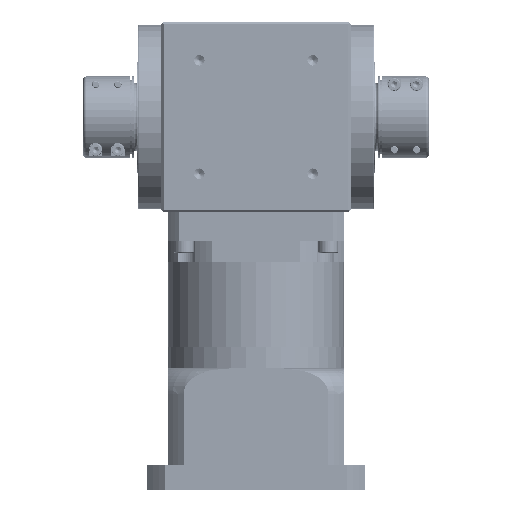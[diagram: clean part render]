
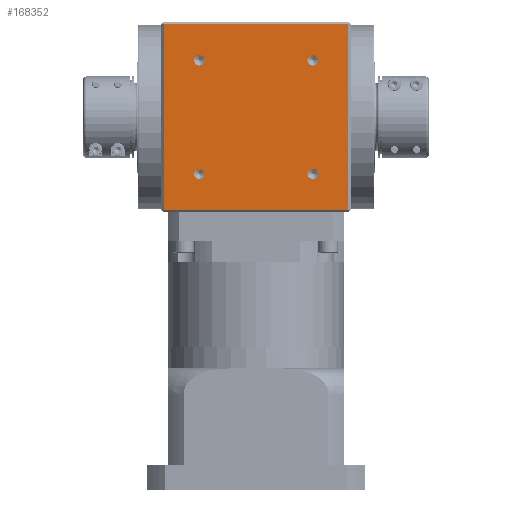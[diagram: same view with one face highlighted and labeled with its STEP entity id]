
A CAD part, top view. The second image highlights one B-rep face of the part: STEP entity #168352.
In plain terms, the highlighted planar face has unit normal (0, 0, 1).
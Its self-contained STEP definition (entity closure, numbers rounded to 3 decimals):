
#1145 = VERTEX_POINT ( 'NONE', #4447 ) ;
#2578 = CARTESIAN_POINT ( 'NONE',  ( -74.872, 357., 77. ) ) ;
#4371 = DIRECTION ( 'NONE',  ( 0., 1., 0. ) ) ;
#4447 = CARTESIAN_POINT ( 'NONE',  ( 45.962, 231.788, 77. ) ) ;
#5282 = DIRECTION ( 'NONE',  ( 0., -1., 0. ) ) ;
#11130 = ORIENTED_EDGE ( 'NONE', *, *, #87867, .F. ) ;
#12067 = CIRCLE ( 'NONE', #122741, 4.25 ) ;
#12569 = EDGE_CURVE ( 'NONE', #1145, #137122, #66223, .T. ) ;
#16577 = CARTESIAN_POINT ( 'NONE',  ( 45.962, 236.038, 77. ) ) ;
#17306 = PLANE ( 'NONE',  #162827 ) ;
#17497 = VERTEX_POINT ( 'NONE', #113237 ) ;
#17625 = VECTOR ( 'NONE', #158482, 1000. ) ;
#19391 = CARTESIAN_POINT ( 'NONE',  ( -45.962, 236.038, 77. ) ) ;
#20758 = VERTEX_POINT ( 'NONE', #116572 ) ;
#25735 = ORIENTED_EDGE ( 'NONE', *, *, #95438, .F. ) ;
#29971 = DIRECTION ( 'NONE',  ( 0., -1., 0. ) ) ;
#30185 = VERTEX_POINT ( 'NONE', #48305 ) ;
#32854 = DIRECTION ( 'NONE',  ( 0., -1., 0. ) ) ;
#36179 = ORIENTED_EDGE ( 'NONE', *, *, #85710, .F. ) ;
#36264 = FACE_BOUND ( 'NONE', #67404, .T. ) ;
#42351 = EDGE_CURVE ( 'NONE', #88865, #30185, #69183, .T. ) ;
#44193 = CARTESIAN_POINT ( 'NONE',  ( -45.962, 236.038, 77. ) ) ;
#44620 = FACE_BOUND ( 'NONE', #155348, .T. ) ;
#45967 = CARTESIAN_POINT ( 'NONE',  ( 45.962, 236.038, 77. ) ) ;
#48305 = CARTESIAN_POINT ( 'NONE',  ( -74.872, 207., 77. ) ) ;
#49440 = DIRECTION ( 'NONE',  ( 1., 0., 0. ) ) ;
#49596 = CIRCLE ( 'NONE', #65592, 4.25 ) ;
#53666 = CIRCLE ( 'NONE', #132421, 4.25 ) ;
#54776 = CARTESIAN_POINT ( 'NONE',  ( -95., 207., 77. ) ) ;
#56204 = ORIENTED_EDGE ( 'NONE', *, *, #75481, .F. ) ;
#57154 = AXIS2_PLACEMENT_3D ( 'NONE', #67101, #160731, #80566 ) ;
#57665 = DIRECTION ( 'NONE',  ( 0., -1., 0. ) ) ;
#58091 = CARTESIAN_POINT ( 'NONE',  ( 45.962, 332.212, 77. ) ) ;
#59382 = DIRECTION ( 'NONE',  ( 0., -1., 0. ) ) ;
#59794 = CIRCLE ( 'NONE', #94833, 4.25 ) ;
#65592 = AXIS2_PLACEMENT_3D ( 'NONE', #72640, #166194, #86047 ) ;
#66223 = CIRCLE ( 'NONE', #157189, 4.25 ) ;
#66682 = EDGE_CURVE ( 'NONE', #74231, #17497, #92906, .T. ) ;
#67101 = CARTESIAN_POINT ( 'NONE',  ( -45.962, 327.962, 77. ) ) ;
#67404 = EDGE_LOOP ( 'NONE', ( #74202, #36179 ) ) ;
#69183 = LINE ( 'NONE', #54776, #171696 ) ;
#71178 = ORIENTED_EDGE ( 'NONE', *, *, #114551, .F. ) ;
#72640 = CARTESIAN_POINT ( 'NONE',  ( -45.962, 327.962, 77. ) ) ;
#72905 = CARTESIAN_POINT ( 'NONE',  ( 45.962, 327.962, 77. ) ) ;
#74202 = ORIENTED_EDGE ( 'NONE', *, *, #12569, .F. ) ;
#74231 = VERTEX_POINT ( 'NONE', #2578 ) ;
#74896 = ORIENTED_EDGE ( 'NONE', *, *, #166946, .F. ) ;
#75481 = EDGE_CURVE ( 'NONE', #85405, #101602, #96734, .T. ) ;
#76143 = AXIS2_PLACEMENT_3D ( 'NONE', #165529, #85426, #5282 ) ;
#76159 = CARTESIAN_POINT ( 'NONE',  ( 74.872, 0., 77. ) ) ;
#76755 = CIRCLE ( 'NONE', #140718, 4.25 ) ;
#79197 = VERTEX_POINT ( 'NONE', #58091 ) ;
#80566 = DIRECTION ( 'NONE',  ( 0., -1., 0. ) ) ;
#84520 = DIRECTION ( 'NONE',  ( 0., 0., -1. ) ) ;
#85405 = VERTEX_POINT ( 'NONE', #133517 ) ;
#85426 = DIRECTION ( 'NONE',  ( 0., 0., 1. ) ) ;
#85710 = EDGE_CURVE ( 'NONE', #137122, #1145, #12067, .T. ) ;
#86047 = DIRECTION ( 'NONE',  ( 0., -1., 0. ) ) ;
#86327 = DIRECTION ( 'NONE',  ( 0., -1., 0. ) ) ;
#87867 = EDGE_CURVE ( 'NONE', #17497, #88865, #163150, .T. ) ;
#88865 = VERTEX_POINT ( 'NONE', #138163 ) ;
#92906 = LINE ( 'NONE', #115515, #159879 ) ;
#92938 = LINE ( 'NONE', #144973, #17625 ) ;
#93104 = EDGE_CURVE ( 'NONE', #151487, #20758, #76755, .T. ) ;
#93286 = ORIENTED_EDGE ( 'NONE', *, *, #101493, .F. ) ;
#94833 = AXIS2_PLACEMENT_3D ( 'NONE', #72905, #166485, #86327 ) ;
#95438 = EDGE_CURVE ( 'NONE', #79197, #119829, #59794, .T. ) ;
#96734 = CIRCLE ( 'NONE', #57154, 4.25 ) ;
#99135 = CARTESIAN_POINT ( 'NONE',  ( 45.962, 240.288, 77. ) ) ;
#101375 = ORIENTED_EDGE ( 'NONE', *, *, #93104, .F. ) ;
#101493 = EDGE_CURVE ( 'NONE', #119829, #79197, #155494, .T. ) ;
#101602 = VERTEX_POINT ( 'NONE', #139819 ) ;
#103207 = FACE_OUTER_BOUND ( 'NONE', #108611, .T. ) ;
#108611 = EDGE_LOOP ( 'NONE', ( #11130, #122243, #74896, #122571 ) ) ;
#110142 = DIRECTION ( 'NONE',  ( 0., 0., 1. ) ) ;
#110677 = CARTESIAN_POINT ( 'NONE',  ( 45.962, 323.712, 77. ) ) ;
#112996 = DIRECTION ( 'NONE',  ( 0., 0., 1. ) ) ;
#113237 = CARTESIAN_POINT ( 'NONE',  ( 74.872, 357., 77. ) ) ;
#114551 = EDGE_CURVE ( 'NONE', #101602, #85405, #49596, .T. ) ;
#115515 = CARTESIAN_POINT ( 'NONE',  ( -95., 357., 77. ) ) ;
#116572 = CARTESIAN_POINT ( 'NONE',  ( -45.962, 240.288, 77. ) ) ;
#118807 = ORIENTED_EDGE ( 'NONE', *, *, #124932, .F. ) ;
#119829 = VERTEX_POINT ( 'NONE', #110677 ) ;
#122243 = ORIENTED_EDGE ( 'NONE', *, *, #66682, .F. ) ;
#122571 = ORIENTED_EDGE ( 'NONE', *, *, #42351, .F. ) ;
#122741 = AXIS2_PLACEMENT_3D ( 'NONE', #16577, #110142, #29971 ) ;
#124932 = EDGE_CURVE ( 'NONE', #20758, #151487, #53666, .T. ) ;
#131724 = VECTOR ( 'NONE', #169715, 1000. ) ;
#132421 = AXIS2_PLACEMENT_3D ( 'NONE', #44193, #137771, #57665 ) ;
#133517 = CARTESIAN_POINT ( 'NONE',  ( -45.962, 332.212, 77. ) ) ;
#134856 = DIRECTION ( 'NONE',  ( -1., 0., 0. ) ) ;
#137122 = VERTEX_POINT ( 'NONE', #99135 ) ;
#137771 = DIRECTION ( 'NONE',  ( 0., 0., 1. ) ) ;
#138163 = CARTESIAN_POINT ( 'NONE',  ( 74.872, 207., 77. ) ) ;
#138743 = FACE_BOUND ( 'NONE', #139086, .T. ) ;
#139086 = EDGE_LOOP ( 'NONE', ( #93286, #25735 ) ) ;
#139531 = DIRECTION ( 'NONE',  ( 0., 0., 1. ) ) ;
#139819 = CARTESIAN_POINT ( 'NONE',  ( -45.962, 323.712, 77. ) ) ;
#140718 = AXIS2_PLACEMENT_3D ( 'NONE', #19391, #112996, #32854 ) ;
#142543 = CARTESIAN_POINT ( 'NONE',  ( -45.962, 231.788, 77. ) ) ;
#144973 = CARTESIAN_POINT ( 'NONE',  ( -74.872, 0., 77. ) ) ;
#147140 = FACE_BOUND ( 'NONE', #166045, .T. ) ;
#151487 = VERTEX_POINT ( 'NONE', #142543 ) ;
#155348 = EDGE_LOOP ( 'NONE', ( #71178, #56204 ) ) ;
#155494 = CIRCLE ( 'NONE', #76143, 4.25 ) ;
#157189 = AXIS2_PLACEMENT_3D ( 'NONE', #45967, #139531, #59382 ) ;
#158482 = DIRECTION ( 'NONE',  ( 0., 1., 0. ) ) ;
#159879 = VECTOR ( 'NONE', #49440, 1000. ) ;
#160731 = DIRECTION ( 'NONE',  ( 0., 0., 1. ) ) ;
#162827 = AXIS2_PLACEMENT_3D ( 'NONE', #164698, #84520, #4371 ) ;
#163150 = LINE ( 'NONE', #76159, #131724 ) ;
#164698 = CARTESIAN_POINT ( 'NONE',  ( -95., 359., 77. ) ) ;
#165529 = CARTESIAN_POINT ( 'NONE',  ( 45.962, 327.962, 77. ) ) ;
#166045 = EDGE_LOOP ( 'NONE', ( #101375, #118807 ) ) ;
#166194 = DIRECTION ( 'NONE',  ( 0., 0., 1. ) ) ;
#166485 = DIRECTION ( 'NONE',  ( 0., 0., 1. ) ) ;
#166946 = EDGE_CURVE ( 'NONE', #30185, #74231, #92938, .T. ) ;
#168352 = ADVANCED_FACE ( 'NONE', ( #44620, #138743, #36264, #147140, #103207 ), #17306, .F. ) ;
#169715 = DIRECTION ( 'NONE',  ( 0., -1., 0. ) ) ;
#171696 = VECTOR ( 'NONE', #134856, 1000. ) ;
